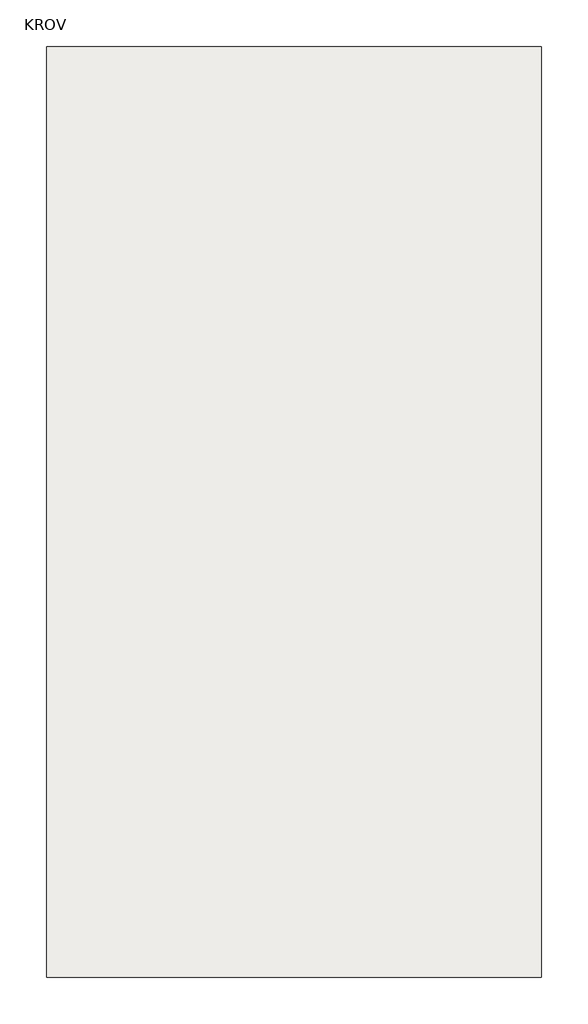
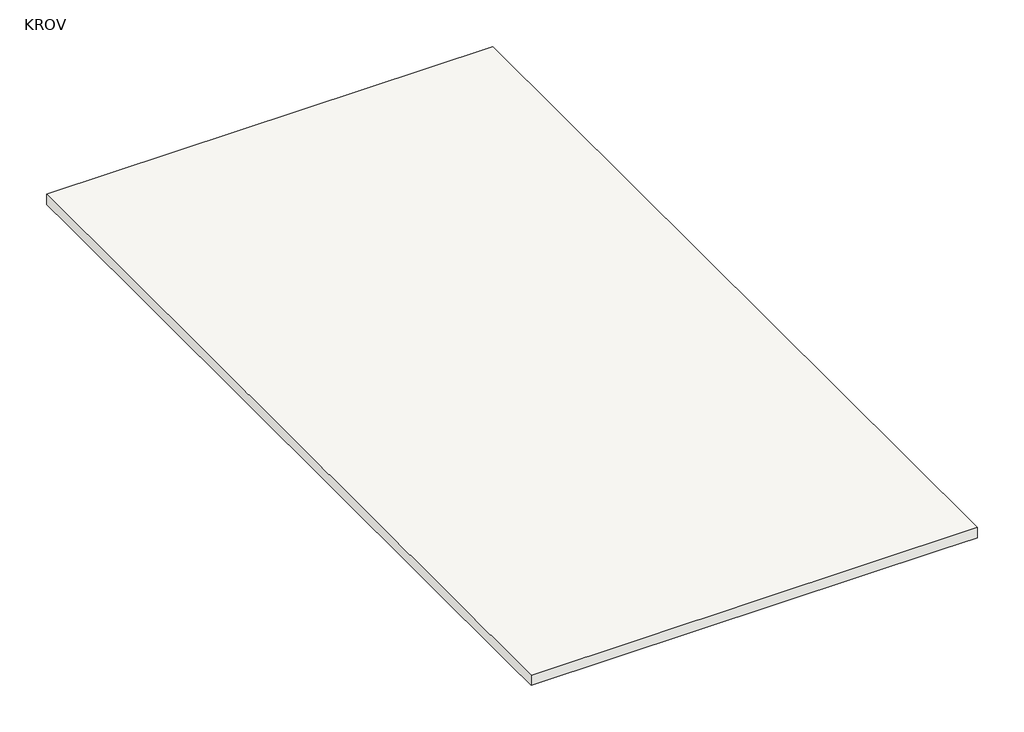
# One storey: 1 slab.
"""IFC4 building model written with IfcOpenShell, lengths in millimetres."""

from ifc_helpers import new_model, si_unit, origin, place, context, project, spatial, faceted_brep, element, save

model = new_model("IFC4")

# Units and contexts
model_context = context("Model", 3, world=origin())
ifc_project = project(units=[si_unit("LENGTHUNIT", "METRE", prefix="MILLI")], contexts=[model_context])

# Site, building, storey
site = spatial("IfcSite", under=ifc_project)
building = spatial("IfcBuilding", under=site)
storey = spatial("IfcBuildingStorey", under=building, Name="KROV", Elevation=3060.0)

# Slab
placement = place(None, origin())
element("IfcSlab", 1, ObjectType="Generic - 12\"", at=placement, inside=storey, context=model_context, shape_type="Brep", body=[
    faceted_brep([(5019.5805911, 5217.6601523, 2940.0), (5019.5805911, -4182.3398477, 2940.0), (4619.5805911, -4182.3398477, 2940.0), (19.5805911, -4182.3398477, 2940.0), (19.5805911, -3782.3398477, 2940.0), (19.5805911, 4817.6601523, 2940.0), (19.5805911, 5217.6601523, 2940.0), (4619.5805911, 5217.6601523, 2940.0), (5019.5805911, 5217.6601523, 3060.0), (19.5805911, 5217.6601523, 3060.0), (19.5805911, -4182.3398477, 3060.0), (5019.5805911, -4182.3398477, 3060.0)], [[[0, 1, 2, 3, 4, 5, 6, 7]], [[8, 9, 10, 11]], [[1, 0, 8, 11]], [[3, 2, 1, 11, 10]], [[6, 5, 4, 3, 10, 9]], [[0, 7, 6, 9, 8]]]),
])

save(model, "model.ifc")
